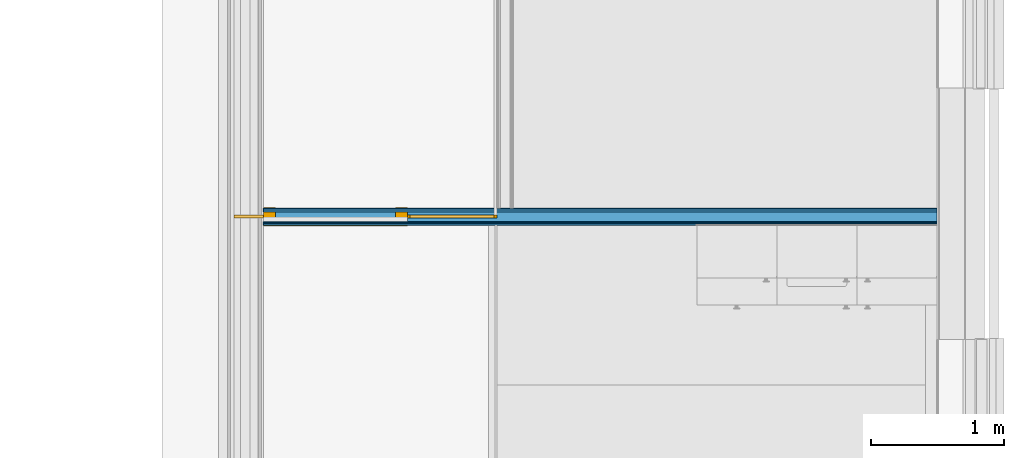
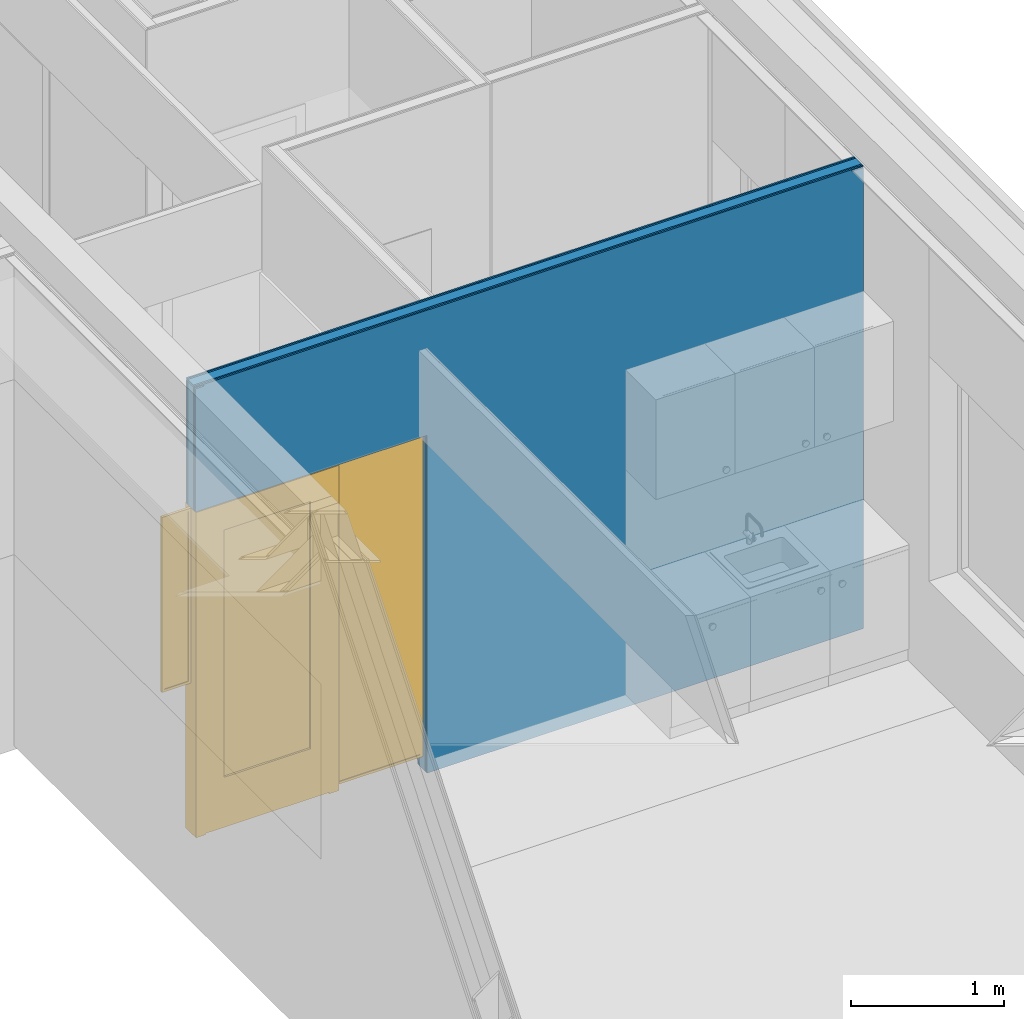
# One storey, part 45 of 137: 5 building element parts, 3 doors, 3 openings, 1 element without a shape of its own.
"""IFC2X3 building model written with IfcOpenShell, lengths in millimetres."""

from ifc_helpers import new_model, entity, si_unit, converted_unit, derived_unit, money_unit, direction, frame, origin_with_axes, place, context, subcontext, project, spatial, open_shell, faceted_brep, surface_model, source, transform, mapped, material, type_object, type_shapes, element, fill, aggregate, save


model = new_model("IFC2X3")

# Units and contexts
model_context = context("Model", 3, precision=0.01, world=origin_with_axes(), true_north=direction((0.0, 1.0)))
body_context = subcontext(model_context, "Body", "Model", "MODEL_VIEW")
ifc_project = project(units=[si_unit("LENGTHUNIT", "METRE", prefix="MILLI"), si_unit("AREAUNIT", "SQUARE_METRE"), si_unit("VOLUMEUNIT", "CUBIC_METRE"), converted_unit("PLANEANGLEUNIT", "DEGREE", entity("IfcPlaneAngleMeasure", 0.0174532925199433), si_unit("PLANEANGLEUNIT", "RADIAN"), dimensions=[0, 0, 0, 0, 0, 0, 0]), money_unit("EUR"), converted_unit("TIMEUNIT", "Year", entity("IfcTimeMeasure", 31556926.0), si_unit("TIMEUNIT", "SECOND"), dimensions=[0, 0, 1, 0, 0, 0, 0]), si_unit("MASSUNIT", "GRAM", prefix="KILO"), si_unit("THERMODYNAMICTEMPERATUREUNIT", "DEGREE_CELSIUS"), si_unit("LUMINOUSINTENSITYUNIT", "LUMEN"), si_unit("ENERGYUNIT", "JOULE", prefix="MEGA"), derived_unit("THERMALCONDUCTANCEUNIT", [(si_unit("POWERUNIT", "WATT"), 1), (si_unit("LENGTHUNIT", "METRE"), -1), (si_unit("THERMODYNAMICTEMPERATUREUNIT", "KELVIN"), -1)]), derived_unit("SPECIFICHEATCAPACITYUNIT", [(si_unit("ENERGYUNIT", "JOULE"), 1), (si_unit("MASSUNIT", "GRAM", prefix="KILO"), -1), (si_unit("THERMODYNAMICTEMPERATUREUNIT", "KELVIN"), -1)]), derived_unit("MASSDENSITYUNIT", [(si_unit("MASSUNIT", "GRAM", prefix="KILO"), 1), (si_unit("VOLUMEUNIT", "CUBIC_METRE"), -1)])], contexts=[model_context])

# Site, building, storey
site_placement = place(None, origin_with_axes())
site = spatial("IfcSite", under=ifc_project, at=site_placement, Name="Site", CompositionType="ELEMENT")
building_placement = place(site_placement, origin_with_axes())
building = spatial("IfcBuilding", under=site, at=building_placement, Name="Naam gebouw", CompositionType="ELEMENT")
storey_placement = place(building_placement, frame((0.0, 0.0, 3960.0), z_axis=(0.0, 0.0, 1.0), x_axis=(1.0, 0.0, 0.0)))
storey = spatial("IfcBuildingStorey", under=building, at=storey_placement, Name="1e verdieping", CompositionType="ELEMENT", Elevation=3960.0)

# Door
door_style_1 = type_object("IfcDoorStyle", Name="D1 26", ConstructionType="NOTDEFINED", OperationType="SINGLE_SWING_RIGHT", ParameterTakesPrecedence=False, Sizeable=False)
shared_shape = source(origin_with_axes(), body_context, "Body", "SurfaceModel", [
    faceted_brep([(-450.0000000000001, -40.0, 0.0), (-450.0000000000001, -40.0, 2510.0), (-450.0000000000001, -139.0, 2510.0), (-450.0000000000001, -139.0, 0.0), (-467.0000000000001, -40.0, 2510.0), (-467.0000000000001, -40.0, 0.0), (-467.0000000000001, 0.0, 2510.0), (-540.0, 0.0, 2510.0), (-540.0, -139.0, 2510.0), (-540.0, -139.0, 0.0), (-540.0, 0.0, 0.0), (-467.0000000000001, 0.0, 0.0)], [[[0, 1, 2, 3]], [[4, 1, 0, 5]], [[4, 6, 7, 8, 2, 1]], [[3, 2, 8, 9]], [[5, 0, 3, 9, 10, 11]], [[6, 4, 5, 11]], [[6, 11, 10, 7]], [[10, 9, 8, 7]]]),
    faceted_brep([(467.0000000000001, -40.0, 2510.0), (450.0000000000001, -40.0, 2510.0), (450.0000000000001, -139.0, 2510.0), (540.0, -139.0, 2510.0), (540.0, 0.0, 2510.0), (467.0000000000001, 0.0, 2510.0), (467.0000000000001, -40.0, 0.0), (450.0000000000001, -40.0, 0.0), (450.0000000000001, -139.0, 0.0), (540.0, -139.0, 0.0), (540.0, 0.0, 0.0), (467.0000000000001, 0.0, 0.0)], [[[0, 1, 2, 3, 4, 5]], [[1, 0, 6, 7]], [[1, 7, 8, 2]], [[3, 2, 8, 9]], [[4, 3, 9, 10]], [[11, 5, 4, 10]], [[0, 5, 11, 6]], [[6, 11, 10, 9, 8, 7]]]),
    faceted_brep([(-467.0000000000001, 0.0, 2527.0), (-467.0000000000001, 0.0, 2510.0), (-540.0, 0.0, 2510.0), (-540.0, 0.0, 2600.0), (540.0, 0.0, 2600.0), (540.0, 0.0, 2510.0), (467.0000000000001, 0.0, 2510.0), (467.0000000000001, 0.0, 2527.0), (-467.0000000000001, -40.0, 2527.0), (-467.0000000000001, -40.0, 2510.0), (-450.0000000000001, -40.0, 2510.0), (-450.0000000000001, -139.0, 2510.0), (-540.0, -139.0, 2510.0), (-540.0, -139.0, 2600.0), (540.0, -139.0, 2600.0), (540.0, -139.0, 2510.0), (467.0000000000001, -40.0, 2510.0), (450.0000000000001, -139.0, 2510.0), (450.0000000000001, -40.0, 2510.0), (467.0000000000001, -40.0, 2527.0)], [[[0, 1, 2, 3, 4, 5, 6, 7]], [[1, 0, 8, 9]], [[9, 10, 11, 12, 2, 1]], [[2, 12, 13, 3]], [[3, 13, 14, 4]], [[4, 14, 15, 5]], [[16, 6, 5, 15, 17, 18]], [[7, 6, 16, 19]], [[0, 7, 19, 8]], [[16, 18, 10, 9, 8, 19]], [[10, 18, 17, 11]], [[17, 15, 14, 13, 12, 11]]]),
    faceted_brep([(467.0000000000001, 0.0, 410.0000000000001), (467.0000000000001, -40.00000000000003, 410.0000000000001), (327.0000000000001, -40.00000000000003, 410.0000000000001), (327.0000000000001, 0.0, 410.0000000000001), (467.0000000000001, 0.0, 2387.0), (467.0000000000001, -40.00000000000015, 2387.0), (327.0000000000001, -40.00000000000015, 2387.0), (327.0000000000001, 0.0, 2387.0)], [[[0, 1, 2, 3]], [[4, 5, 1, 0]], [[1, 5, 6, 2]], [[3, 2, 6, 7]], [[0, 3, 7, 4]], [[7, 6, 5, 4]]]),
    faceted_brep([(-467.0000000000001, 0.0, 410.0000000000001), (-467.0000000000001, -40.00000000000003, 410.0000000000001), (-467.0000000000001, -40.00000000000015, 2387.0), (-467.0000000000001, 0.0, 2387.0), (-327.0000000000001, 0.0, 410.0000000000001), (-327.0000000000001, -40.00000000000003, 410.0000000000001), (-327.0000000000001, -40.00000000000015, 2387.0), (-327.0000000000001, 0.0, 2387.0)], [[[0, 1, 2, 3]], [[4, 5, 1, 0]], [[1, 5, 6, 2]], [[3, 2, 6, 7]], [[0, 3, 7, 4]], [[7, 6, 5, 4]]]),
    faceted_brep([(467.0000000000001, 0.0, 10.0), (467.0000000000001, -40.0, 10.0), (-467.0000000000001, -40.0, 10.0), (-467.0000000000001, 0.0, 10.0), (467.0000000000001, 0.0, 410.0000000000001), (467.0000000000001, -40.00000000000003, 410.0000000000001), (327.0000000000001, -40.00000000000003, 410.0000000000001), (-327.0000000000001, -40.00000000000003, 410.0000000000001), (-467.0000000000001, -40.00000000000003, 410.0000000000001), (-467.0000000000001, 0.0, 410.0000000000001), (-327.0000000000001, 0.0, 410.0000000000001), (327.0000000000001, 0.0, 410.0000000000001)], [[[0, 1, 2, 3]], [[4, 5, 1, 0]], [[1, 5, 6, 7, 8, 2]], [[3, 2, 8, 9]], [[0, 3, 9, 10, 11, 4]], [[11, 6, 5, 4]], [[10, 7, 6, 11]], [[9, 8, 7, 10]]]),
    faceted_brep([(467.0000000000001, 0.0, 2527.0), (467.0000000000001, -40.00000000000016, 2527.0), (467.0000000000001, -40.00000000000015, 2387.0), (467.0000000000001, 0.0, 2387.0), (-467.0000000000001, 0.0, 2527.0), (-467.0000000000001, -40.00000000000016, 2527.0), (-467.0000000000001, -40.00000000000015, 2387.0), (-327.0000000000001, -40.00000000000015, 2387.0), (327.0000000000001, -40.00000000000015, 2387.0), (327.0000000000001, 0.0, 2387.0), (-327.0000000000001, 0.0, 2387.0), (-467.0000000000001, 0.0, 2387.0)], [[[0, 1, 2, 3]], [[4, 5, 1, 0]], [[1, 5, 6, 7, 8, 2]], [[3, 2, 8, 9]], [[0, 3, 9, 10, 11, 4]], [[11, 6, 5, 4]], [[10, 7, 6, 11]], [[9, 8, 7, 10]]]),
    surface_model("IfcShellBasedSurfaceModel", [(327.0000000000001, -14.0, 410.0000000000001), (-327.0000000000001, -14.0, 410.0000000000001), (-327.0000000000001, -14.0, 2387.0), (327.0000000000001, -14.0, 2387.0)], [open_shell([[[0, 1, 2, 3]]])]),
    surface_model("IfcShellBasedSurfaceModel", [(327.0000000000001, -26.0, 410.0000000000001), (327.0000000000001, -26.0, 2387.0), (-327.0000000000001, -26.0, 2387.0), (-327.0000000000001, -26.0, 410.0000000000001)], [open_shell([[[0, 1, 2, 3]]])]),
])
type_shapes(door_style_1, [shared_shape])
proxy_placement = place(storey_placement, frame((29899.99999999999, 8840.0, -100.0000000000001), z_axis=(0.0, 0.0, 1.0), x_axis=(-1.0, 0.0, 0.0)))
opening_3_placement = place(proxy_placement, frame((4725.000960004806, 0.0, 100.0000000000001), z_axis=(0.0, 0.0, 1.0), x_axis=(1.0, 0.0, 0.0)))
door_1_placement = place(opening_3_placement, frame((-449.9999999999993, 0.0, 0.0), z_axis=(0.0, 0.0, 1.0), x_axis=(1.0, 0.0, 0.0)))
door_1 = element("IfcDoor", 1, at=door_1_placement, inside=storey, type_object=door_style_1, Name="_01.02", ObjectType="DOOR", OverallHeight=2600.0, OverallWidth=1080.0, context=body_context, shape_type="MappedRepresentation", body=[
    mapped(shared_shape, transform((449.9999999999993, 131.9999999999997, 0.0))),
])

door_style_2 = type_object("IfcDoorStyle", Name="R1 26", ConstructionType="NOTDEFINED", OperationType="SINGLE_SWING_RIGHT", ParameterTakesPrecedence=False, Sizeable=False)
opening_1_placement = place(proxy_placement, frame((3849.500480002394, 0.0, 100.0000000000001), z_axis=(0.0, 0.0, 1.0), x_axis=(1.0, 0.0, 0.0)))
door_2_placement = place(opening_1_placement, frame((-335.5004800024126, 0.0, 0.0), z_axis=(0.0, 0.0, 1.0), x_axis=(1.0, 0.0, 0.0)))
door_2 = element("IfcDoor", 2, at=door_2_placement, inside=storey, type_object=door_style_2, Name="_B.10", ObjectType="DOOR", OverallHeight=2600.0, OverallWidth=671.001, context=body_context, shape_type="SurfaceModel", body=[
    faceted_brep([(19.99999999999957, 50.00000000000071, 2580.0), (19.99999999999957, 70.00000000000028, 2580.0), (0.0, 70.00000000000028, 2580.0), (0.0, 50.00000000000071, 2580.0), (19.99999999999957, 50.00000000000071, 20.00000000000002), (19.99999999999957, 70.00000000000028, 20.00000000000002), (0.0, 70.00000000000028, 20.00000000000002), (0.0, 50.00000000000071, 20.00000000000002)], [[[0, 1, 2, 3]], [[4, 5, 1, 0]], [[1, 5, 6, 2]], [[3, 2, 6, 7]], [[0, 3, 7, 4]], [[7, 6, 5, 4]]]),
    faceted_brep([(651.0009600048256, 50.00000000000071, 20.00000000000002), (651.0009600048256, 70.00000000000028, 20.00000000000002), (671.0009600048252, 70.00000000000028, 20.00000000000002), (671.0009600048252, 50.00000000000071, 20.00000000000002), (651.0009600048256, 50.00000000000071, 2580.0), (651.0009600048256, 70.00000000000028, 2580.0), (671.0009600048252, 70.00000000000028, 2580.0), (671.0009600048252, 50.00000000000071, 2580.0)], [[[0, 1, 2, 3]], [[4, 5, 1, 0]], [[1, 5, 6, 2]], [[3, 2, 6, 7]], [[0, 3, 7, 4]], [[7, 6, 5, 4]]]),
    faceted_brep([(19.99999999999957, 50.00000000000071, 20.00000000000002), (19.99999999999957, 70.00000000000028, 20.00000000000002), (0.0, 70.00000000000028, 20.00000000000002), (0.0, 50.00000000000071, 20.00000000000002), (651.0009600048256, 50.00000000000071, 20.00000000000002), (651.0009600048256, 70.00000000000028, 20.00000000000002), (671.0009600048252, 70.00000000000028, 20.00000000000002), (671.0009600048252, 70.00000000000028, 0.0), (0.0, 70.00000000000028, 0.0), (0.0, 50.00000000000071, 0.0), (671.0009600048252, 50.00000000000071, 0.0), (671.0009600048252, 50.00000000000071, 20.00000000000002)], [[[0, 1, 2, 3]], [[4, 5, 1, 0]], [[1, 5, 6, 7, 8, 2]], [[3, 2, 8, 9]], [[0, 3, 9, 10, 11, 4]], [[11, 6, 5, 4]], [[10, 7, 6, 11]], [[9, 8, 7, 10]]]),
    faceted_brep([(651.0009600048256, 50.00000000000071, 2580.0), (651.0009600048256, 70.00000000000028, 2580.0), (671.0009600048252, 70.00000000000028, 2580.0), (671.0009600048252, 50.00000000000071, 2580.0), (19.99999999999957, 50.00000000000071, 2580.0), (19.99999999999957, 70.00000000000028, 2580.0), (0.0, 70.00000000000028, 2580.0), (0.0, 70.00000000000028, 2600.0), (671.0009600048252, 70.00000000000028, 2600.0), (671.0009600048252, 50.00000000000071, 2600.0), (0.0, 50.00000000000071, 2600.0), (0.0, 50.00000000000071, 2580.0)], [[[0, 1, 2, 3]], [[4, 5, 1, 0]], [[1, 5, 6, 7, 8, 2]], [[3, 2, 8, 9]], [[0, 3, 9, 10, 11, 4]], [[11, 6, 5, 4]], [[10, 7, 6, 11]], [[9, 8, 7, 10]]]),
    surface_model("IfcShellBasedSurfaceModel", [(19.99999999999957, 54.99999999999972, 20.00000000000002), (651.0009600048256, 54.99999999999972, 20.00000000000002), (651.0009600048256, 54.99999999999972, 2580.0), (19.99999999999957, 54.99999999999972, 2580.0)], [open_shell([[[0, 1, 2, 3]]])]),
    surface_model("IfcShellBasedSurfaceModel", [(19.99999999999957, 64.9999999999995, 20.00000000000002), (19.99999999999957, 64.9999999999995, 2580.0), (651.0009600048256, 64.9999999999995, 2580.0), (651.0009600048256, 64.9999999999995, 20.00000000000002)], [open_shell([[[0, 1, 2, 3]]])]),
])

opening_2_placement = place(proxy_placement, frame((5375.000960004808, 0.0, 1300.0), z_axis=(0.0, 0.0, 1.0), x_axis=(1.0, 0.0, 0.0)))
door_3_placement = place(opening_2_placement, frame((-109.9999999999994, 0.0, 0.0), z_axis=(0.0, 0.0, 1.0), x_axis=(1.0, 0.0, 0.0)))
door_3 = element("IfcDoor", 3, at=door_3_placement, inside=storey, type_object=door_style_2, Name="_C.09", ObjectType="DOOR", OverallHeight=1400.0, OverallWidth=220.0, context=body_context, shape_type="SurfaceModel", body=[
    faceted_brep([(19.99999999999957, 50.00000000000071, 1380.0), (19.99999999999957, 70.00000000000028, 1380.0), (0.0, 70.00000000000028, 1380.0), (0.0, 50.00000000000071, 1380.0), (19.99999999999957, 50.00000000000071, 19.99999999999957), (19.99999999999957, 70.00000000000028, 19.99999999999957), (0.0, 70.00000000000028, 19.99999999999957), (0.0, 50.00000000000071, 19.99999999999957)], [[[0, 1, 2, 3]], [[4, 5, 1, 0]], [[1, 5, 6, 2]], [[3, 2, 6, 7]], [[0, 3, 7, 4]], [[7, 6, 5, 4]]]),
    faceted_brep([(199.9999999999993, 50.00000000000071, 19.99999999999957), (199.9999999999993, 70.00000000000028, 19.99999999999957), (219.9999999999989, 70.00000000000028, 19.99999999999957), (219.9999999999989, 50.00000000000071, 19.99999999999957), (199.9999999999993, 50.00000000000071, 1380.0), (199.9999999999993, 70.00000000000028, 1380.0), (219.9999999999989, 70.00000000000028, 1380.0), (219.9999999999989, 50.00000000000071, 1380.0)], [[[0, 1, 2, 3]], [[4, 5, 1, 0]], [[1, 5, 6, 2]], [[3, 2, 6, 7]], [[0, 3, 7, 4]], [[7, 6, 5, 4]]]),
    faceted_brep([(19.99999999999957, 50.00000000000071, 19.99999999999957), (19.99999999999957, 70.00000000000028, 19.99999999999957), (0.0, 70.00000000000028, 19.99999999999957), (0.0, 50.00000000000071, 19.99999999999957), (199.9999999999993, 50.00000000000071, 19.99999999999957), (199.9999999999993, 70.00000000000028, 19.99999999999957), (219.9999999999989, 70.00000000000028, 19.99999999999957), (219.9999999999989, 70.00000000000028, 0.0), (0.0, 70.00000000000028, 0.0), (0.0, 50.00000000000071, 0.0), (219.9999999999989, 50.00000000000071, 0.0), (219.9999999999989, 50.00000000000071, 19.99999999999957)], [[[0, 1, 2, 3]], [[4, 5, 1, 0]], [[1, 5, 6, 7, 8, 2]], [[3, 2, 8, 9]], [[0, 3, 9, 10, 11, 4]], [[11, 6, 5, 4]], [[10, 7, 6, 11]], [[9, 8, 7, 10]]]),
    faceted_brep([(199.9999999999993, 50.00000000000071, 1380.0), (199.9999999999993, 70.00000000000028, 1380.0), (219.9999999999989, 70.00000000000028, 1380.0), (219.9999999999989, 50.00000000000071, 1380.0), (19.99999999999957, 50.00000000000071, 1380.0), (19.99999999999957, 70.00000000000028, 1380.0), (0.0, 70.00000000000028, 1380.0), (0.0, 70.00000000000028, 1400.0), (219.9999999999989, 70.00000000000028, 1400.0), (219.9999999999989, 50.00000000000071, 1400.0), (0.0, 50.00000000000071, 1400.0), (0.0, 50.00000000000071, 1380.0)], [[[0, 1, 2, 3]], [[4, 5, 1, 0]], [[1, 5, 6, 7, 8, 2]], [[3, 2, 8, 9]], [[0, 3, 9, 10, 11, 4]], [[11, 6, 5, 4]], [[10, 7, 6, 11]], [[9, 8, 7, 10]]]),
    surface_model("IfcShellBasedSurfaceModel", [(19.99999999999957, 54.99999999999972, 19.99999999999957), (199.9999999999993, 54.99999999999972, 19.99999999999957), (199.9999999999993, 54.99999999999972, 1380.0), (19.99999999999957, 54.99999999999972, 1380.0)], [open_shell([[[0, 1, 2, 3]]])]),
    surface_model("IfcShellBasedSurfaceModel", [(19.99999999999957, 64.9999999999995, 19.99999999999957), (19.99999999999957, 64.9999999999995, 1380.0), (199.9999999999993, 64.9999999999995, 1380.0), (199.9999999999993, 64.9999999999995, 19.99999999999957)], [open_shell([[[0, 1, 2, 3]]])]),
])

# Proxy, opening
building_element_proxy_type = type_object("IfcBuildingElementProxyType", Name="22 Metal stud 125 gips 125", PredefinedType="NOTDEFINED")
proxy = element("IfcBuildingElementProxy", 4, at=proxy_placement, inside=storey, type_object=building_element_proxy_type, Name="_Wand-x")
opening_1 = element("IfcOpeningElement", 5, at=opening_1_placement, cuts=proxy, Name="_B.10", context=body_context, shape_type="Brep", body=[
    faceted_brep([(335.5004800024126, 50.00000000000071, -100.0000000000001), (335.5004800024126, 50.00000000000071, 2600.0), (335.5004800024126, -0.9999999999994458, 2600.0), (335.5004800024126, -0.9999999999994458, -100.0000000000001), (335.5004800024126, 125.9999999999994, -100.0000000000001), (335.5004800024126, 125.9999999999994, 2600.0), (-335.5004800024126, 50.00000000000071, 2600.0), (-335.5004800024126, -0.9999999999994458, 2600.0), (-335.5004800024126, 125.9999999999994, 2600.0), (-335.5004800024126, -0.9999999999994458, -100.0000000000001), (-335.5004800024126, 50.00000000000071, -100.0000000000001), (-335.5004800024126, 125.9999999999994, -100.0000000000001)], [[[0, 1, 2, 3]], [[1, 0, 4, 5]], [[6, 7, 2, 1, 5, 8]], [[7, 9, 3, 2]], [[0, 3, 9, 10, 11, 4]], [[5, 4, 11, 8]], [[6, 10, 9, 7]], [[10, 6, 8, 11]]]),
])

fill(opening_1, door_2)

# Opening
opening_2 = element("IfcOpeningElement", 6, at=opening_2_placement, cuts=proxy, Name="_C.09", context=body_context, shape_type="Brep", body=[
    faceted_brep([(109.9999999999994, 50.00000000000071, 0.0), (109.9999999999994, 50.00000000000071, 1400.0), (109.9999999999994, -0.9999999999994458, 1400.0), (109.9999999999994, -0.9999999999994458, 0.0), (109.9999999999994, 125.9999999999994, 0.0), (109.9999999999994, 125.9999999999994, 1400.0), (-109.9999999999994, 50.00000000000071, 1400.0), (-109.9999999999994, -0.9999999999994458, 1400.0), (-109.9999999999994, 125.9999999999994, 1400.0), (-109.9999999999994, -0.9999999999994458, 0.0), (-109.9999999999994, 50.00000000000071, 0.0), (-109.9999999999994, 125.9999999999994, 0.0)], [[[0, 1, 2, 3]], [[1, 0, 4, 5]], [[6, 7, 2, 1, 5, 8]], [[7, 9, 3, 2]], [[0, 3, 9, 10, 11, 4]], [[5, 4, 11, 8]], [[6, 10, 9, 7]], [[10, 6, 8, 11]]]),
])

fill(opening_2, door_3)

opening_3 = element("IfcOpeningElement", 7, at=opening_3_placement, cuts=proxy, Name="_01.02", context=body_context, shape_type="Brep", body=[
    faceted_brep([(539.9999999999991, 125.9999999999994, 2600.0), (539.9999999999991, 125.9999999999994, -100.0000000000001), (-539.9999999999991, 125.9999999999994, -100.0000000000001), (-539.9999999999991, 125.9999999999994, 2600.0), (539.9999999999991, -0.9999999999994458, 2600.0), (539.9999999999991, -0.9999999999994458, -100.0000000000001), (-539.9999999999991, -0.9999999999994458, -100.0000000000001), (-539.9999999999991, -0.9999999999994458, 2600.0)], [[[0, 1, 2, 3]], [[4, 5, 1, 0]], [[5, 6, 2, 1]], [[6, 7, 3, 2]], [[7, 4, 0, 3]], [[6, 5, 4, 7]]]),
])

fill(opening_3, door_1)

# Building element part
ifc_material_1 = material(Name="Gipsplaat")
building_element_part_1_placement = place(proxy_placement, origin_with_axes())
building_element_part_1 = element("IfcBuildingElementPart", 8, at=building_element_part_1_placement, material=ifc_material_1, Name="Gipsplaat", context=body_context, shape_type="Brep", body=[
    faceted_brep([(3513.999999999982, 125.0, 2700.0), (5265.000960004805, 125.0, 2700.0), (5265.000960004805, 112.5000000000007, 2700.0), (3513.999999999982, 112.5000000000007, 2700.0), (5265.000960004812, 125.0, 3685.000029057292), (3513.999999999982, 125.0, 0.0), (213.9999999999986, 125.0, 0.0), (213.9999999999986, 125.0, 3685.000001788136), (299.0000049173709, 125.0, 3685.000001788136), (299.0000049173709, 125.0, 3695.000001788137), (213.9999999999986, 125.0, 3695.000001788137), (213.9999999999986, 125.0, 3700.0), (5265.000960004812, 125.0, 3700.0), (5265.000960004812, 125.0, 3695.000029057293), (5200.000960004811, 125.0, 3695.000029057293), (5200.000960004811, 125.0, 3685.000029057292), (5265.000960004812, 112.5000000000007, 3685.000029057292), (5200.000960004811, 112.5000000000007, 3685.000029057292), (5200.000960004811, 112.5000000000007, 3695.000029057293), (5265.000960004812, 112.5000000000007, 3695.000029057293), (5265.000960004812, 112.5000000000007, 3700.0), (213.9999999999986, 112.5000000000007, 3700.0), (213.9999999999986, 112.5000000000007, 3695.000001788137), (299.0000049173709, 112.5000000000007, 3695.000001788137), (299.0000049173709, 112.5000000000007, 3685.000001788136), (213.9999999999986, 112.5000000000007, 3685.000001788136), (213.9999999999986, 112.5000000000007, 0.0), (3513.999999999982, 112.4999999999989, 0.0)], [[[0, 1, 2, 3]], [[4, 1, 0, 5, 6, 7, 8, 9, 10, 11, 12, 13, 14, 15]], [[16, 2, 1, 4]], [[3, 2, 16, 17, 18, 19, 20, 21, 22, 23, 24, 25, 26, 27]], [[3, 27, 5, 0]], [[5, 27, 26, 6]], [[7, 6, 26, 25]], [[25, 24, 8, 7]], [[23, 9, 8, 24]], [[22, 10, 9, 23]], [[22, 21, 11, 10]], [[12, 11, 21, 20]], [[13, 12, 20, 19]], [[18, 14, 13, 19]], [[17, 15, 14, 18]], [[16, 4, 15, 17]]]),
])

building_element_part_2_placement = place(proxy_placement, origin_with_axes())
building_element_part_2 = element("IfcBuildingElementPart", 9, at=building_element_part_2_placement, material=ifc_material_1, Name="Gipsplaat", context=body_context, shape_type="Brep", body=[
    faceted_brep([(3513.999999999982, 112.5000000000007, 2700.0), (5265.000960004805, 112.5000000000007, 2700.0), (5265.000960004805, 99.99999999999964, 2700.0), (3513.999999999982, 100.0000000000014, 2700.0), (5265.000960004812, 112.5000000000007, 3685.000029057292), (3513.999999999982, 112.4999999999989, 0.0), (213.9999999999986, 112.5000000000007, 0.0), (213.9999999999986, 112.5000000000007, 3685.000001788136), (299.0000049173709, 112.5000000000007, 3685.000001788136), (299.0000049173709, 112.5000000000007, 3695.000001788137), (213.9999999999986, 112.5000000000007, 3695.000001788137), (213.9999999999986, 112.5000000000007, 3700.0), (5265.000960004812, 112.5000000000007, 3700.0), (5265.000960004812, 112.5000000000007, 3695.000029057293), (5200.000960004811, 112.4999999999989, 3695.000029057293), (5200.000960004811, 112.4999999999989, 3685.000029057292), (5265.000960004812, 99.99999999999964, 3685.000029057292), (5200.000960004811, 99.99999999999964, 3685.000029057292), (5200.000960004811, 99.99999999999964, 3695.000029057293), (5265.000960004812, 99.99999999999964, 3695.000029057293), (5265.000960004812, 99.99999999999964, 3700.0), (213.9999999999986, 99.99999999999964, 3700.0), (213.9999999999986, 99.99999999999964, 3695.000001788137), (299.0000049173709, 100.0000000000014, 3695.000001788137), (299.0000049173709, 100.0000000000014, 3685.000001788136), (213.9999999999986, 99.99999999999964, 3685.000001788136), (213.9999999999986, 99.99999999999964, 0.0), (3513.999999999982, 99.99999999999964, 0.0)], [[[0, 1, 2, 3]], [[4, 1, 0, 5, 6, 7, 8, 9, 10, 11, 12, 13, 14, 15]], [[16, 2, 1, 4]], [[3, 2, 16, 17, 18, 19, 20, 21, 22, 23, 24, 25, 26, 27]], [[3, 27, 5, 0]], [[5, 27, 26, 6]], [[7, 6, 26, 25]], [[25, 24, 8, 7]], [[23, 9, 8, 24]], [[22, 10, 9, 23]], [[22, 21, 11, 10]], [[12, 11, 21, 20]], [[13, 12, 20, 19]], [[18, 14, 13, 19]], [[17, 15, 14, 18]], [[16, 4, 15, 17]]]),
])

ifc_material_2 = material(Name="ALG - LICHTE SCHEIDINGSWAND")
building_element_part_3_placement = place(proxy_placement, origin_with_axes())
building_element_part_3 = element("IfcBuildingElementPart", 10, at=building_element_part_3_placement, material=ifc_material_2, Name="ALG - LICHTE SCHEIDINGSWAND", context=body_context, shape_type="Brep", body=[
    faceted_brep([(3513.999999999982, 99.99999999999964, 2700.0), (5265.000960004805, 99.99999999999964, 2700.0), (5265.000960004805, 25.00000000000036, 2700.0), (3513.999999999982, 24.99999999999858, 2700.0), (5265.000960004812, 99.99999999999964, 3685.000029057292), (3513.999999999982, 99.99999999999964, 0.0), (213.9999999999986, 99.99999999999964, 0.0), (213.9999999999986, 99.99999999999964, 3685.000001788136), (299.0000049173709, 100.0000000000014, 3685.000001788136), (299.0000049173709, 100.0000000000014, 3695.000001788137), (213.9999999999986, 99.99999999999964, 3695.000001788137), (213.9999999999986, 99.99999999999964, 3700.0), (5265.000960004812, 99.99999999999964, 3700.0), (5265.000960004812, 99.99999999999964, 3695.000029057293), (5200.000960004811, 99.99999999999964, 3695.000029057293), (5200.000960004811, 99.99999999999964, 3685.000029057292), (5265.000960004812, 25.00000000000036, 3685.000029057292), (5200.000960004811, 25.00000000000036, 3685.000029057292), (5200.000960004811, 25.00000000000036, 3695.000029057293), (5265.000960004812, 25.00000000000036, 3695.000029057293), (5265.000960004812, 25.00000000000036, 3700.0), (213.9999999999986, 25.00000000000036, 3700.0), (213.9999999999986, 25.00000000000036, 3695.000001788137), (299.0000049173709, 24.99999999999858, 3695.000001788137), (299.0000049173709, 24.99999999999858, 3685.000001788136), (213.9999999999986, 25.00000000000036, 3685.000001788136), (213.9999999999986, 25.00000000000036, 0.0), (3513.999999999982, 25.00000000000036, 0.0)], [[[0, 1, 2, 3]], [[4, 1, 0, 5, 6, 7, 8, 9, 10, 11, 12, 13, 14, 15]], [[16, 2, 1, 4]], [[3, 2, 16, 17, 18, 19, 20, 21, 22, 23, 24, 25, 26, 27]], [[5, 0, 3, 27]], [[5, 27, 26, 6]], [[6, 26, 25, 7]], [[24, 8, 7, 25]], [[9, 8, 24, 23]], [[10, 9, 23, 22]], [[21, 11, 10, 22]], [[11, 21, 20, 12]], [[12, 20, 19, 13]], [[14, 13, 19, 18]], [[15, 14, 18, 17]], [[4, 15, 17, 16]]]),
])

building_element_part_4_placement = place(proxy_placement, origin_with_axes())
building_element_part_4 = element("IfcBuildingElementPart", 11, at=building_element_part_4_placement, material=ifc_material_1, Name="Gipsplaat", context=body_context, shape_type="Brep", body=[
    faceted_brep([(3513.999999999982, 24.99999999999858, 2700.0), (5265.000960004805, 25.00000000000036, 2700.0), (5265.000960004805, 12.49999999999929, 2700.0), (3513.999999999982, 12.49999999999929, 2700.0), (5265.000960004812, 25.00000000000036, 3685.000029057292), (3513.999999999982, 25.00000000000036, 0.0), (213.9999999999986, 25.00000000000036, 0.0), (213.9999999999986, 25.00000000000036, 3685.000001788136), (299.0000049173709, 24.99999999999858, 3685.000001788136), (299.0000049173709, 24.99999999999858, 3695.000001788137), (213.9999999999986, 25.00000000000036, 3695.000001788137), (213.9999999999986, 25.00000000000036, 3700.0), (5265.000960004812, 25.00000000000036, 3700.0), (5265.000960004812, 25.00000000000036, 3695.000029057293), (5200.000960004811, 25.00000000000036, 3695.000029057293), (5200.000960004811, 25.00000000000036, 3685.000029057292), (5265.000960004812, 12.49999999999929, 3685.000029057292), (5200.000960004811, 12.49999999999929, 3685.000029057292), (5200.000960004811, 12.49999999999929, 3695.000029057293), (5265.000960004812, 12.49999999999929, 3695.000029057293), (5265.000960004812, 12.49999999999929, 3700.0), (213.9999999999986, 12.50000000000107, 3700.0), (213.9999999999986, 12.50000000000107, 3695.000001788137), (299.0000049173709, 12.49999999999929, 3695.000001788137), (299.0000049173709, 12.49999999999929, 3685.000001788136), (213.9999999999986, 12.50000000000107, 3685.000001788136), (213.9999999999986, 12.49999999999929, 0.0), (3513.999999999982, 12.49999999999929, 0.0)], [[[0, 1, 2, 3]], [[4, 1, 0, 5, 6, 7, 8, 9, 10, 11, 12, 13, 14, 15]], [[16, 2, 1, 4]], [[3, 2, 16, 17, 18, 19, 20, 21, 22, 23, 24, 25, 26, 27]], [[3, 27, 5, 0]], [[5, 27, 26, 6]], [[7, 6, 26, 25]], [[25, 24, 8, 7]], [[23, 9, 8, 24]], [[22, 10, 9, 23]], [[22, 21, 11, 10]], [[12, 11, 21, 20]], [[13, 12, 20, 19]], [[18, 14, 13, 19]], [[17, 15, 14, 18]], [[16, 4, 15, 17]]]),
])

building_element_part_5_placement = place(proxy_placement, origin_with_axes())
building_element_part_5 = element("IfcBuildingElementPart", 12, at=building_element_part_5_placement, material=ifc_material_1, Name="Gipsplaat", context=body_context, shape_type="Brep", body=[
    faceted_brep([(3513.999999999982, 12.49999999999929, 2700.0), (5265.000960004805, 12.49999999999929, 2700.0), (5265.000960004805, 0.0, 2700.0), (3513.999999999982, 0.0, 2700.0), (5265.000960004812, 12.49999999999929, 3685.000029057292), (3513.999999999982, 12.49999999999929, 0.0), (213.9999999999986, 12.49999999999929, 0.0), (213.9999999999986, 12.50000000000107, 3685.000001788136), (299.0000049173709, 12.49999999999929, 3685.000001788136), (299.0000049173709, 12.49999999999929, 3695.000001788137), (213.9999999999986, 12.50000000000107, 3695.000001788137), (213.9999999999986, 12.50000000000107, 3700.0), (5265.000960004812, 12.49999999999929, 3700.0), (5265.000960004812, 12.49999999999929, 3695.000029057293), (5200.000960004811, 12.49999999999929, 3695.000029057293), (5200.000960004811, 12.49999999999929, 3685.000029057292), (5265.000960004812, 0.0, 3685.000029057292), (5200.000960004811, 0.0, 3685.000029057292), (5200.000960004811, 0.0, 3695.000029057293), (5265.000960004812, 0.0, 3695.000029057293), (5265.000960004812, 0.0, 3700.0), (213.9999999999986, 0.0, 3700.0), (213.9999999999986, 0.0, 3695.000001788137), (299.0000049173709, 0.0, 3695.000001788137), (299.0000049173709, 0.0, 3685.000001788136), (213.9999999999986, 0.0, 3685.000001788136), (213.9999999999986, 0.0, 0.0), (3513.999999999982, 0.0, 0.0)], [[[0, 1, 2, 3]], [[4, 1, 0, 5, 6, 7, 8, 9, 10, 11, 12, 13, 14, 15]], [[16, 2, 1, 4]], [[3, 2, 16, 17, 18, 19, 20, 21, 22, 23, 24, 25, 26, 27]], [[3, 27, 5, 0]], [[5, 27, 26, 6]], [[7, 6, 26, 25]], [[25, 24, 8, 7]], [[23, 9, 8, 24]], [[22, 10, 9, 23]], [[22, 21, 11, 10]], [[12, 11, 21, 20]], [[13, 12, 20, 19]], [[18, 14, 13, 19]], [[17, 15, 14, 18]], [[16, 4, 15, 17]]]),
])

aggregate(proxy, [building_element_part_1, building_element_part_2, building_element_part_3, building_element_part_4, building_element_part_5])

save(model, "model.ifc")
